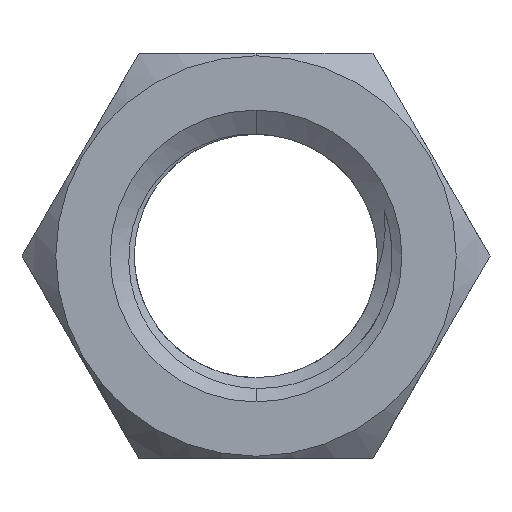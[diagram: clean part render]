
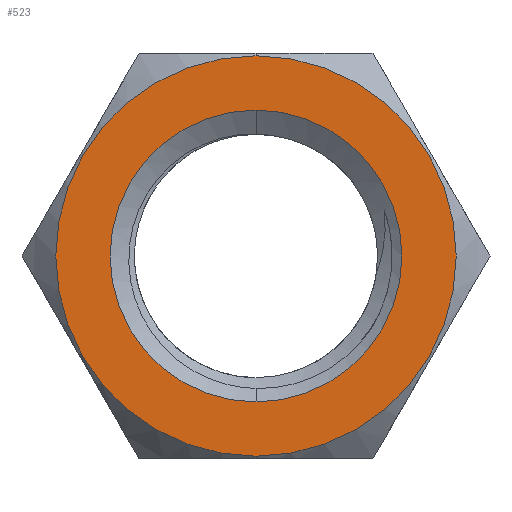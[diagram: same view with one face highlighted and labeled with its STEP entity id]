
A CAD part, front view. The second image highlights one B-rep face of the part: STEP entity #523.
In plain terms, the highlighted planar face has unit normal (0, -1, 0).
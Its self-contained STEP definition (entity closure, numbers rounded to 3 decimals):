
#57 = CARTESIAN_POINT ( 'NONE',  ( 0., -7.75, 0. ) ) ;
#225 = AXIS2_PLACEMENT_3D ( 'NONE', #1971, #673, #1566 ) ;
#236 = CIRCLE ( 'NONE', #2818, 14.821 ) ;
#313 = PLANE ( 'NONE',  #2749 ) ;
#327 = VERTEX_POINT ( 'NONE', #1169 ) ;
#366 = DIRECTION ( 'NONE',  ( 0., 0., 1. ) ) ;
#462 = EDGE_CURVE ( 'NONE', #327, #1885, #1976, .T. ) ;
#519 = DIRECTION ( 'NONE',  ( 0., -1., 0. ) ) ;
#523 = ADVANCED_FACE ( 'NONE', ( #1650, #1893 ), #313, .F. ) ;
#591 = CARTESIAN_POINT ( 'NONE',  ( 0., -7.75, 14.821 ) ) ;
#600 = EDGE_LOOP ( 'NONE', ( #987, #3039 ) ) ;
#673 = DIRECTION ( 'NONE',  ( 0., -1., 0. ) ) ;
#872 = CARTESIAN_POINT ( 'NONE',  ( 0., -7.75, 0. ) ) ;
#987 = ORIENTED_EDGE ( 'NONE', *, *, #3069, .F. ) ;
#995 = CARTESIAN_POINT ( 'NONE',  ( 0., -7.75, -14.821 ) ) ;
#1169 = CARTESIAN_POINT ( 'NONE',  ( 0., -7.75, -10.8 ) ) ;
#1211 = VERTEX_POINT ( 'NONE', #591 ) ;
#1566 = DIRECTION ( 'NONE',  ( 0., 0., -1. ) ) ;
#1650 = FACE_BOUND ( 'NONE', #600, .T. ) ;
#1657 = AXIS2_PLACEMENT_3D ( 'NONE', #2464, #2780, #2267 ) ;
#1731 = EDGE_LOOP ( 'NONE', ( #2987, #2415 ) ) ;
#1885 = VERTEX_POINT ( 'NONE', #1952 ) ;
#1893 = FACE_OUTER_BOUND ( 'NONE', #1731, .T. ) ;
#1952 = CARTESIAN_POINT ( 'NONE',  ( 0., -7.75, 10.8 ) ) ;
#1971 = CARTESIAN_POINT ( 'NONE',  ( 0., -7.75, 0. ) ) ;
#1976 = CIRCLE ( 'NONE', #225, 10.8 ) ;
#2033 = AXIS2_PLACEMENT_3D ( 'NONE', #872, #2394, #2132 ) ;
#2132 = DIRECTION ( 'NONE',  ( 0., 0., -1. ) ) ;
#2197 = VERTEX_POINT ( 'NONE', #995 ) ;
#2267 = DIRECTION ( 'NONE',  ( 0., 0., -1. ) ) ;
#2394 = DIRECTION ( 'NONE',  ( 0., -1., 0. ) ) ;
#2415 = ORIENTED_EDGE ( 'NONE', *, *, #3090, .T. ) ;
#2464 = CARTESIAN_POINT ( 'NONE',  ( 0., -7.75, 0. ) ) ;
#2473 = CIRCLE ( 'NONE', #1657, 14.821 ) ;
#2628 = CARTESIAN_POINT ( 'NONE',  ( 0., -7.75, 0. ) ) ;
#2749 = AXIS2_PLACEMENT_3D ( 'NONE', #57, #3227, #366 ) ;
#2780 = DIRECTION ( 'NONE',  ( 0., -1., 0. ) ) ;
#2818 = AXIS2_PLACEMENT_3D ( 'NONE', #2628, #519, #3392 ) ;
#2987 = ORIENTED_EDGE ( 'NONE', *, *, #3378, .T. ) ;
#3039 = ORIENTED_EDGE ( 'NONE', *, *, #462, .F. ) ;
#3069 = EDGE_CURVE ( 'NONE', #1885, #327, #3137, .T. ) ;
#3090 = EDGE_CURVE ( 'NONE', #2197, #1211, #2473, .T. ) ;
#3137 = CIRCLE ( 'NONE', #2033, 10.8 ) ;
#3227 = DIRECTION ( 'NONE',  ( 0., 1., 0. ) ) ;
#3378 = EDGE_CURVE ( 'NONE', #1211, #2197, #236, .T. ) ;
#3392 = DIRECTION ( 'NONE',  ( 0., 0., -1. ) ) ;
